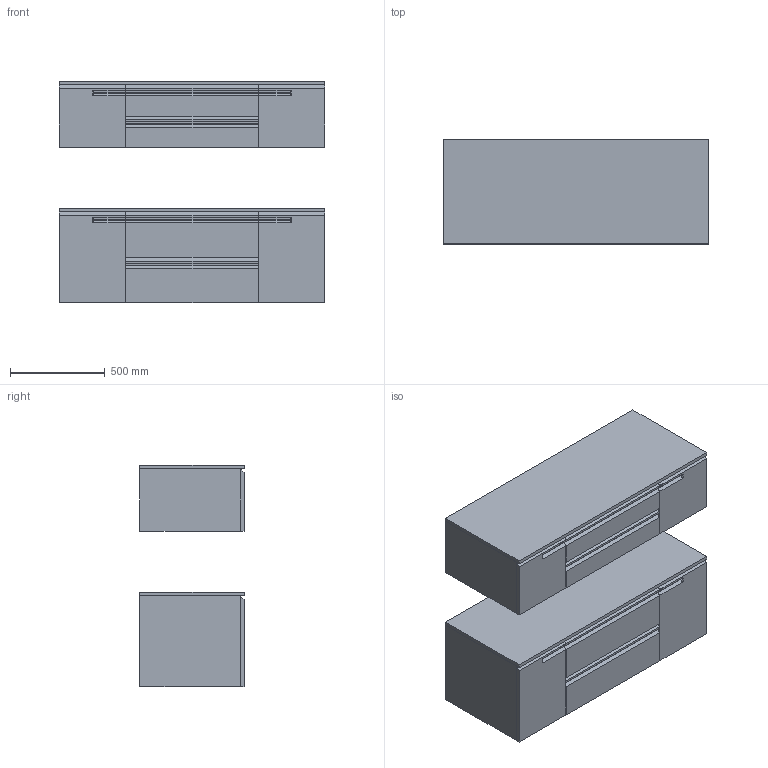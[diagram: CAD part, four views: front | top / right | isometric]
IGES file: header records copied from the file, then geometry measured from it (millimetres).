
Global section: file name: \\Archi-NAS\Comune\X GIOVANNI\MOBILI\EMPHASIS\EMPHASIS_4.igs; native system: Rhinoceros ( Feb 23 2021 ); preprocessor: Trout Lake IGES 012 Feb 23 2021; date: 230607.154954; units: millimetre
Bounding box: 1400 x 550 x 1171.3 mm (x, y, z)
Surface area: 21825865 mm2 (no closed solid volume)
Topology: 0 solids, 0 shells, 440 faces, 1988 edges, 1988 vertices
Faces by surface type: bspline 440
